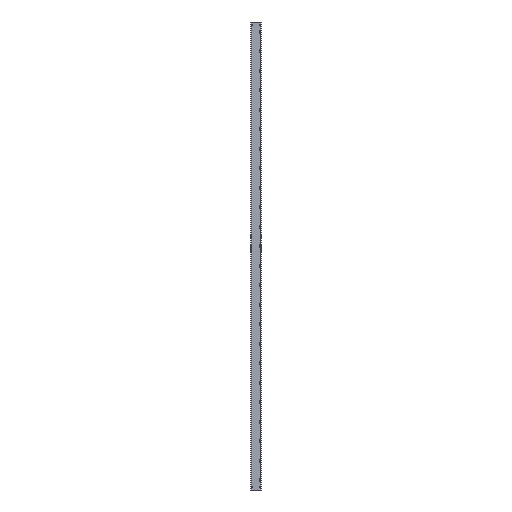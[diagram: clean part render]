
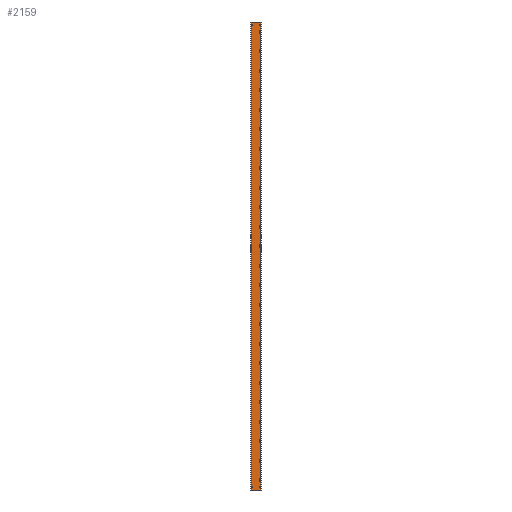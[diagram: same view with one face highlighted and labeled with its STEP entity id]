
A CAD part, left-side view. The second image highlights one B-rep face of the part: STEP entity #2159.
In plain terms, the highlighted planar face has unit normal (-1, 0, 0) as drawn and (1, 0, 0) by its records, which use the part's own axes.
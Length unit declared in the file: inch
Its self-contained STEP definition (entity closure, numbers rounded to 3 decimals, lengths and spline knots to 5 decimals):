
#1417=DIRECTION('',(0.,-1.,0.));
#1418=VECTOR('',#1417,5.97);
#1419=CARTESIAN_POINT('',(0.08,4.973,0.));
#1420=LINE('',#1419,#1418);
#1534=DIRECTION('',(0.,0.,1.));
#1535=VECTOR('',#1534,288.);
#1536=CARTESIAN_POINT('',(0.08,4.973,-288.));
#1537=LINE('',#1536,#1535);
#1538=DIRECTION('',(0.,0.,1.));
#1539=VECTOR('',#1538,288.);
#1540=CARTESIAN_POINT('',(0.08,-0.997,-288.));
#1541=LINE('',#1540,#1539);
#1542=DIRECTION('',(0.,-1.,0.));
#1543=VECTOR('',#1542,0.41);
#1544=CARTESIAN_POINT('',(0.08,4.61,-1.725));
#1545=LINE('',#1544,#1543);
#1546=DIRECTION('',(0.,0.,-1.));
#1547=VECTOR('',#1546,0.47);
#1548=CARTESIAN_POINT('',(0.08,4.2,-1.725));
#1549=LINE('',#1548,#1547);
#1550=DIRECTION('',(0.,1.,0.));
#1551=VECTOR('',#1550,0.41);
#1552=CARTESIAN_POINT('',(0.08,4.2,-2.195));
#1553=LINE('',#1552,#1551);
#1554=DIRECTION('',(0.,0.,1.));
#1555=VECTOR('',#1554,0.47);
#1556=CARTESIAN_POINT('',(0.08,4.61,-2.195));
#1557=LINE('',#1556,#1555);
#1558=DIRECTION('',(0.,-1.,0.));
#1559=VECTOR('',#1558,0.41);
#1560=CARTESIAN_POINT('',(0.08,-0.225,-1.725));
#1561=LINE('',#1560,#1559);
#1562=DIRECTION('',(0.,0.,-1.));
#1563=VECTOR('',#1562,0.47);
#1564=CARTESIAN_POINT('',(0.08,-0.635,-1.725));
#1565=LINE('',#1564,#1563);
#1566=DIRECTION('',(0.,1.,0.));
#1567=VECTOR('',#1566,0.41);
#1568=CARTESIAN_POINT('',(0.08,-0.635,-2.195));
#1569=LINE('',#1568,#1567);
#1570=DIRECTION('',(0.,0.,1.));
#1571=VECTOR('',#1570,0.47);
#1572=CARTESIAN_POINT('',(0.08,-0.225,-2.195));
#1573=LINE('',#1572,#1571);
#1574=DIRECTION('',(0.,0.,1.));
#1575=VECTOR('',#1574,0.47);
#1576=CARTESIAN_POINT('',(0.08,4.61,-286.275));
#1577=LINE('',#1576,#1575);
#1578=DIRECTION('',(0.,-1.,0.));
#1579=VECTOR('',#1578,0.41);
#1580=CARTESIAN_POINT('',(0.08,4.61,-285.805));
#1581=LINE('',#1580,#1579);
#1582=DIRECTION('',(0.,0.,-1.));
#1583=VECTOR('',#1582,0.47);
#1584=CARTESIAN_POINT('',(0.08,4.2,-285.805));
#1585=LINE('',#1584,#1583);
#1586=DIRECTION('',(0.,1.,0.));
#1587=VECTOR('',#1586,0.41);
#1588=CARTESIAN_POINT('',(0.08,4.2,-286.275));
#1589=LINE('',#1588,#1587);
#1590=DIRECTION('',(0.,0.,1.));
#1591=VECTOR('',#1590,0.47);
#1592=CARTESIAN_POINT('',(0.08,-0.225,-286.275));
#1593=LINE('',#1592,#1591);
#1594=DIRECTION('',(0.,-1.,0.));
#1595=VECTOR('',#1594,0.41);
#1596=CARTESIAN_POINT('',(0.08,-0.225,-285.805));
#1597=LINE('',#1596,#1595);
#1598=DIRECTION('',(0.,0.,-1.));
#1599=VECTOR('',#1598,0.47);
#1600=CARTESIAN_POINT('',(0.08,-0.635,-285.805));
#1601=LINE('',#1600,#1599);
#1602=DIRECTION('',(0.,1.,0.));
#1603=VECTOR('',#1602,0.41);
#1604=CARTESIAN_POINT('',(0.08,-0.635,-286.275));
#1605=LINE('',#1604,#1603);
#1687=DIRECTION('',(0.,-1.,0.));
#1688=VECTOR('',#1687,5.97);
#1689=CARTESIAN_POINT('',(0.08,4.973,-288.));
#1690=LINE('',#1689,#1688);
#1856=CARTESIAN_POINT('',(0.08,-0.997,-288.));
#1857=CARTESIAN_POINT('',(0.08,-0.997,0.));
#1858=VERTEX_POINT('',#1856);
#1859=VERTEX_POINT('',#1857);
#1892=CARTESIAN_POINT('',(0.08,4.973,-288.));
#1893=CARTESIAN_POINT('',(0.08,4.973,0.));
#1894=VERTEX_POINT('',#1892);
#1895=VERTEX_POINT('',#1893);
#1912=CARTESIAN_POINT('',(0.08,4.61,-1.725));
#1913=CARTESIAN_POINT('',(0.08,4.2,-1.725));
#1914=VERTEX_POINT('',#1912);
#1915=VERTEX_POINT('',#1913);
#1916=CARTESIAN_POINT('',(0.08,4.2,-2.195));
#1917=VERTEX_POINT('',#1916);
#1918=CARTESIAN_POINT('',(0.08,4.61,-2.195));
#1919=VERTEX_POINT('',#1918);
#1920=CARTESIAN_POINT('',(0.08,-0.225,-1.725));
#1921=CARTESIAN_POINT('',(0.08,-0.635,-1.725));
#1922=VERTEX_POINT('',#1920);
#1923=VERTEX_POINT('',#1921);
#1924=CARTESIAN_POINT('',(0.08,-0.635,-2.195));
#1925=VERTEX_POINT('',#1924);
#1926=CARTESIAN_POINT('',(0.08,-0.225,-2.195));
#1927=VERTEX_POINT('',#1926);
#1944=CARTESIAN_POINT('',(0.08,4.61,-286.275));
#1945=CARTESIAN_POINT('',(0.08,4.61,-285.805));
#1946=VERTEX_POINT('',#1944);
#1947=VERTEX_POINT('',#1945);
#1948=CARTESIAN_POINT('',(0.08,4.2,-285.805));
#1949=VERTEX_POINT('',#1948);
#1950=CARTESIAN_POINT('',(0.08,4.2,-286.275));
#1951=VERTEX_POINT('',#1950);
#1952=CARTESIAN_POINT('',(0.08,-0.225,-286.275));
#1953=CARTESIAN_POINT('',(0.08,-0.225,-285.805));
#1954=VERTEX_POINT('',#1952);
#1955=VERTEX_POINT('',#1953);
#1956=CARTESIAN_POINT('',(0.08,-0.635,-285.805));
#1957=VERTEX_POINT('',#1956);
#1958=CARTESIAN_POINT('',(0.08,-0.635,-286.275));
#1959=VERTEX_POINT('',#1958);
#2106=CARTESIAN_POINT('',(0.08,-1.12,0.));
#2107=DIRECTION('',(1.,0.,0.));
#2108=DIRECTION('',(0.,1.,0.));
#2109=AXIS2_PLACEMENT_3D('',#2106,#2107,#2108);
#2110=PLANE('',#2109);
#2112=ORIENTED_EDGE('',*,*,#2111,.F.);
#2114=ORIENTED_EDGE('',*,*,#2113,.T.);
#2116=ORIENTED_EDGE('',*,*,#2115,.T.);
#2117=ORIENTED_EDGE('',*,*,#2015,.F.);
#2118=EDGE_LOOP('',(#2112,#2114,#2116,#2117));
#2119=FACE_OUTER_BOUND('',#2118,.F.);
#2121=ORIENTED_EDGE('',*,*,#2120,.T.);
#2123=ORIENTED_EDGE('',*,*,#2122,.T.);
#2125=ORIENTED_EDGE('',*,*,#2124,.T.);
#2127=ORIENTED_EDGE('',*,*,#2126,.T.);
#2128=EDGE_LOOP('',(#2121,#2123,#2125,#2127));
#2129=FACE_BOUND('',#2128,.F.);
#2131=ORIENTED_EDGE('',*,*,#2130,.T.);
#2133=ORIENTED_EDGE('',*,*,#2132,.T.);
#2135=ORIENTED_EDGE('',*,*,#2134,.T.);
#2137=ORIENTED_EDGE('',*,*,#2136,.T.);
#2138=EDGE_LOOP('',(#2131,#2133,#2135,#2137));
#2139=FACE_BOUND('',#2138,.F.);
#2140=ORIENTED_EDGE('',*,*,#2096,.T.);
#2142=ORIENTED_EDGE('',*,*,#2141,.T.);
#2144=ORIENTED_EDGE('',*,*,#2143,.T.);
#2146=ORIENTED_EDGE('',*,*,#2145,.T.);
#2147=EDGE_LOOP('',(#2140,#2142,#2144,#2146));
#2148=FACE_BOUND('',#2147,.F.);
#2150=ORIENTED_EDGE('',*,*,#2149,.T.);
#2152=ORIENTED_EDGE('',*,*,#2151,.T.);
#2154=ORIENTED_EDGE('',*,*,#2153,.T.);
#2156=ORIENTED_EDGE('',*,*,#2155,.T.);
#2157=EDGE_LOOP('',(#2150,#2152,#2154,#2156));
#2158=FACE_BOUND('',#2157,.F.);
#2159=ADVANCED_FACE('',(#2119,#2129,#2139,#2148,#2158),#2110,.T.);
#2015=EDGE_CURVE('',#1895,#1859,#1420,.T.);
#2096=EDGE_CURVE('',#1946,#1947,#1577,.T.);
#2111=EDGE_CURVE('',#1894,#1895,#1537,.T.);
#2113=EDGE_CURVE('',#1894,#1858,#1690,.T.);
#2115=EDGE_CURVE('',#1858,#1859,#1541,.T.);
#2120=EDGE_CURVE('',#1914,#1915,#1545,.T.);
#2122=EDGE_CURVE('',#1915,#1917,#1549,.T.);
#2124=EDGE_CURVE('',#1917,#1919,#1553,.T.);
#2126=EDGE_CURVE('',#1919,#1914,#1557,.T.);
#2130=EDGE_CURVE('',#1922,#1923,#1561,.T.);
#2132=EDGE_CURVE('',#1923,#1925,#1565,.T.);
#2134=EDGE_CURVE('',#1925,#1927,#1569,.T.);
#2136=EDGE_CURVE('',#1927,#1922,#1573,.T.);
#2141=EDGE_CURVE('',#1947,#1949,#1581,.T.);
#2143=EDGE_CURVE('',#1949,#1951,#1585,.T.);
#2145=EDGE_CURVE('',#1951,#1946,#1589,.T.);
#2149=EDGE_CURVE('',#1954,#1955,#1593,.T.);
#2151=EDGE_CURVE('',#1955,#1957,#1597,.T.);
#2153=EDGE_CURVE('',#1957,#1959,#1601,.T.);
#2155=EDGE_CURVE('',#1959,#1954,#1605,.T.);
